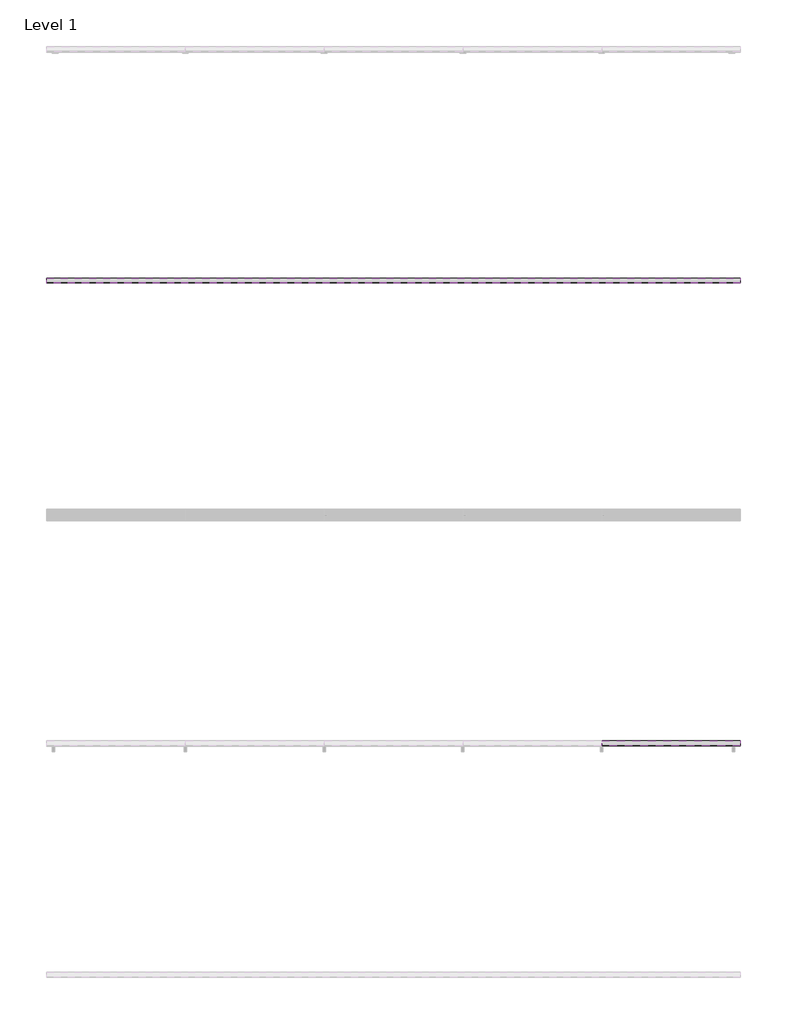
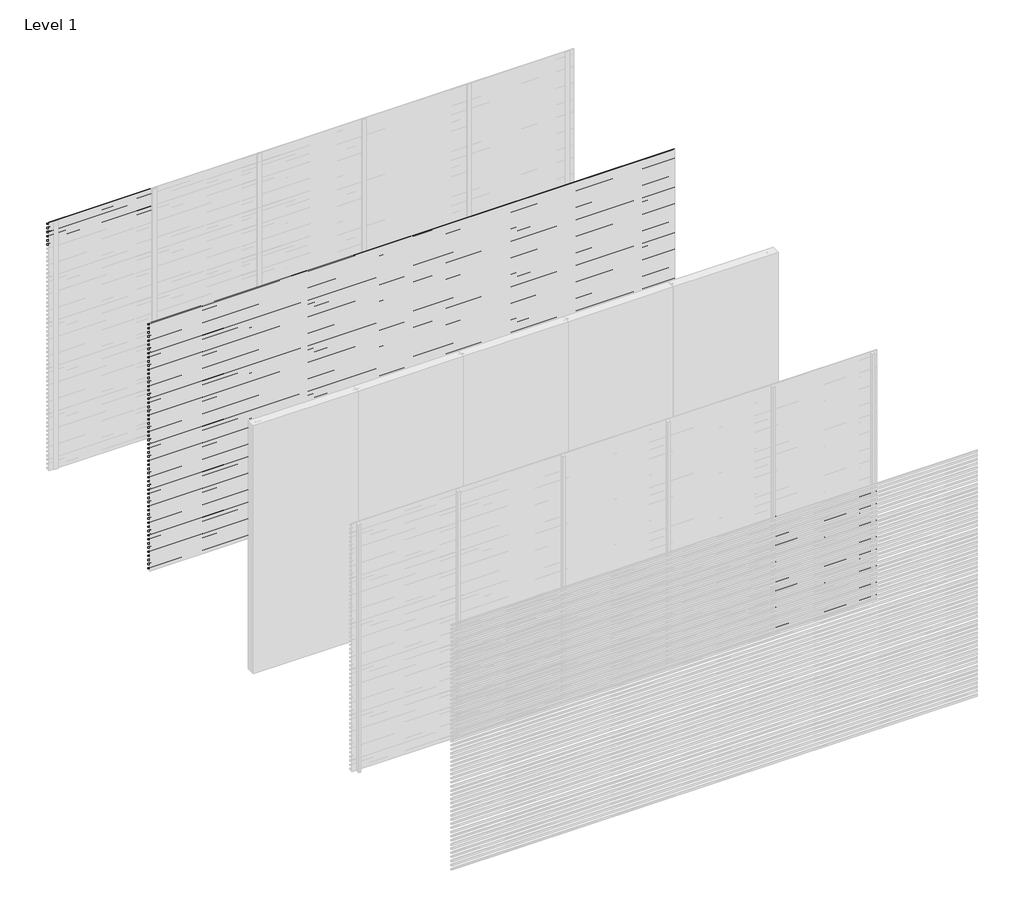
# One storey, part 13 of 16: 94 proxies.
"""IFC4 building model written with IfcOpenShell, lengths in millimetres."""

from ifc_helpers import new_model, si_unit, frame, origin, place, context, project, spatial, polyline, outline, extrude, element, save

model = new_model("IFC4")

# Units and contexts
model_context = context("Model", 3, world=origin())
ifc_project = project(units=[si_unit("LENGTHUNIT", "METRE", prefix="MILLI")], contexts=[model_context])

# Site, building, storey
site = spatial("IfcSite", under=ifc_project)
building = spatial("IfcBuilding", under=site)
storey = spatial("IfcBuildingStorey", under=building, Name="Level 1", Elevation=0.0)

# Proxies
placement = place(None, origin())
element("IfcBuildingElementProxy", 1, Name="Wall Sweeps", at=placement, inside=storey, context=model_context, shape_type="SweptSolid", body=[
    extrude(outline(polyline([(5.0, 3000.0), (5.0, 2989.6352854), (46.0, 2965.0), (46.0, 2950.0), (3.0, 2975.8370066), (3.0, 3000.0), (5.0, 3000.0)])), frame((0.0, 0.0, 0.0), z_axis=(1.0, 0.0, 0.0), x_axis=(0.0, 1.0, 0.0)), (0.0, 0.0, 1.0), 1200.0),
])
element("IfcBuildingElementProxy", 2, Name="Wall Sweeps", at=placement, inside=storey, context=model_context, shape_type="SweptSolid", body=[
    extrude(outline(polyline([(5.0, 2950.0), (5.0, 2939.6352854), (46.0, 2915.0), (46.0, 2900.0), (3.0, 2925.8370066), (3.0, 2950.0), (5.0, 2950.0)])), frame((0.0, 0.0, 0.0), z_axis=(1.0, 0.0, 0.0), x_axis=(0.0, 1.0, 0.0)), (0.0, 0.0, 1.0), 1200.0),
])
element("IfcBuildingElementProxy", 3, Name="Wall Sweeps", at=placement, inside=storey, context=model_context, shape_type="SweptSolid", body=[
    extrude(outline(polyline([(5.0, 2900.0), (5.0, 2889.6352854), (46.0, 2865.0), (46.0, 2850.0), (3.0, 2875.8370066), (3.0, 2900.0), (5.0, 2900.0)])), frame((0.0, 0.0, 0.0), z_axis=(1.0, 0.0, 0.0), x_axis=(0.0, 1.0, 0.0)), (0.0, 0.0, 1.0), 1200.0),
])
element("IfcBuildingElementProxy", 4, Name="Wall Sweeps", at=placement, inside=storey, context=model_context, shape_type="SweptSolid", body=[
    extrude(outline(polyline([(5.0, 2850.0), (5.0, 2839.6352854), (46.0, 2815.0), (46.0, 2800.0), (3.0, 2825.8370066), (3.0, 2850.0), (5.0, 2850.0)])), frame((0.0, 0.0, 0.0), z_axis=(1.0, 0.0, 0.0), x_axis=(0.0, 1.0, 0.0)), (0.0, 0.0, 1.0), 1200.0),
])
element("IfcBuildingElementProxy", 5, Name="Wall Sweeps", at=placement, inside=storey, context=model_context, shape_type="SweptSolid", body=[
    extrude(outline(polyline([(5.0, 2800.0), (5.0, 2789.6352854), (46.0, 2765.0), (46.0, 2750.0), (3.0, 2775.8370066), (3.0, 2800.0), (5.0, 2800.0)])), frame((0.0, 0.0, 0.0), z_axis=(1.0, 0.0, 0.0), x_axis=(0.0, 1.0, 0.0)), (0.0, 0.0, 1.0), 1200.0),
])
element("IfcBuildingElementProxy", 6, Name="Wall Sweeps", at=placement, inside=storey, context=model_context, shape_type="SweptSolid", body=[
    extrude(outline(polyline([(5.0, 2750.0), (5.0, 2739.6352854), (46.0, 2715.0), (46.0, 2700.0), (3.0, 2725.8370066), (3.0, 2750.0), (5.0, 2750.0)])), frame((0.0, 0.0, 0.0), z_axis=(1.0, 0.0, 0.0), x_axis=(0.0, 1.0, 0.0)), (0.0, 0.0, 1.0), 1200.0),
])
element("IfcBuildingElementProxy", 7, Name="Wall Sweeps", at=placement, inside=storey, context=model_context, shape_type="SweptSolid", body=[
    extrude(outline(polyline([(-1995.0, 3000.0), (-1995.0, 2989.6352854), (-1954.0, 2965.0), (-1954.0, 2950.0), (-1997.0, 2975.8370066), (-1997.0, 3000.0), (-1995.0, 3000.0)])), frame((0.0, 0.0, 0.0), z_axis=(1.0, 0.0, 0.0), x_axis=(0.0, 1.0, 0.0)), (0.0, 0.0, 1.0), 6000.0),
])
element("IfcBuildingElementProxy", 8, Name="Wall Sweeps", at=placement, inside=storey, context=model_context, shape_type="SweptSolid", body=[
    extrude(outline(polyline([(-1995.0, 2950.0), (-1995.0, 2939.6352854), (-1954.0, 2915.0), (-1954.0, 2900.0), (-1997.0, 2925.8370066), (-1997.0, 2950.0), (-1995.0, 2950.0)])), frame((0.0, 0.0, 0.0), z_axis=(1.0, 0.0, 0.0), x_axis=(0.0, 1.0, 0.0)), (0.0, 0.0, 1.0), 6000.0),
])
element("IfcBuildingElementProxy", 9, Name="Wall Sweeps", at=placement, inside=storey, context=model_context, shape_type="SweptSolid", body=[
    extrude(outline(polyline([(-1995.0, 2900.0), (-1995.0, 2889.6352854), (-1954.0, 2865.0), (-1954.0, 2850.0), (-1997.0, 2875.8370066), (-1997.0, 2900.0), (-1995.0, 2900.0)])), frame((0.0, 0.0, 0.0), z_axis=(1.0, 0.0, 0.0), x_axis=(0.0, 1.0, 0.0)), (0.0, 0.0, 1.0), 6000.0),
])
element("IfcBuildingElementProxy", 10, Name="Wall Sweeps", at=placement, inside=storey, context=model_context, shape_type="SweptSolid", body=[
    extrude(outline(polyline([(-1995.0, 2850.0), (-1995.0, 2839.6352854), (-1954.0, 2815.0), (-1954.0, 2800.0), (-1997.0, 2825.8370066), (-1997.0, 2850.0), (-1995.0, 2850.0)])), frame((0.0, 0.0, 0.0), z_axis=(1.0, 0.0, 0.0), x_axis=(0.0, 1.0, 0.0)), (0.0, 0.0, 1.0), 6000.0),
])
element("IfcBuildingElementProxy", 11, Name="Wall Sweeps", at=placement, inside=storey, context=model_context, shape_type="SweptSolid", body=[
    extrude(outline(polyline([(-1995.0, 2800.0), (-1995.0, 2789.6352854), (-1954.0, 2765.0), (-1954.0, 2750.0), (-1997.0, 2775.8370066), (-1997.0, 2800.0), (-1995.0, 2800.0)])), frame((0.0, 0.0, 0.0), z_axis=(1.0, 0.0, 0.0), x_axis=(0.0, 1.0, 0.0)), (0.0, 0.0, 1.0), 6000.0),
])
element("IfcBuildingElementProxy", 12, Name="Wall Sweeps", at=placement, inside=storey, context=model_context, shape_type="SweptSolid", body=[
    extrude(outline(polyline([(-1995.0, 2750.0), (-1995.0, 2739.6352854), (-1954.0, 2715.0), (-1954.0, 2700.0), (-1997.0, 2725.8370066), (-1997.0, 2750.0), (-1995.0, 2750.0)])), frame((0.0, 0.0, 0.0), z_axis=(1.0, 0.0, 0.0), x_axis=(0.0, 1.0, 0.0)), (0.0, 0.0, 1.0), 6000.0),
])
element("IfcBuildingElementProxy", 13, Name="Wall Sweeps", at=placement, inside=storey, context=model_context, shape_type="SweptSolid", body=[
    extrude(outline(polyline([(-1995.0, 2700.0), (-1995.0, 2689.6352854), (-1954.0, 2665.0), (-1954.0, 2650.0), (-1997.0, 2675.8370066), (-1997.0, 2700.0), (-1995.0, 2700.0)])), frame((0.0, 0.0, 0.0), z_axis=(1.0, 0.0, 0.0), x_axis=(0.0, 1.0, 0.0)), (0.0, 0.0, 1.0), 6000.0),
])
element("IfcBuildingElementProxy", 14, Name="Wall Sweeps", at=placement, inside=storey, context=model_context, shape_type="SweptSolid", body=[
    extrude(outline(polyline([(-1995.0, 2650.0), (-1995.0, 2639.6352854), (-1954.0, 2615.0), (-1954.0, 2600.0), (-1997.0, 2625.8370066), (-1997.0, 2650.0), (-1995.0, 2650.0)])), frame((0.0, 0.0, 0.0), z_axis=(1.0, 0.0, 0.0), x_axis=(0.0, 1.0, 0.0)), (0.0, 0.0, 1.0), 6000.0),
])
element("IfcBuildingElementProxy", 15, Name="Wall Sweeps", at=placement, inside=storey, context=model_context, shape_type="SweptSolid", body=[
    extrude(outline(polyline([(-1995.0, 2600.0), (-1995.0, 2589.6352854), (-1954.0, 2565.0), (-1954.0, 2550.0), (-1997.0, 2575.8370066), (-1997.0, 2600.0), (-1995.0, 2600.0)])), frame((0.0, 0.0, 0.0), z_axis=(1.0, 0.0, 0.0), x_axis=(0.0, 1.0, 0.0)), (0.0, 0.0, 1.0), 6000.0),
])
element("IfcBuildingElementProxy", 16, Name="Wall Sweeps", at=placement, inside=storey, context=model_context, shape_type="SweptSolid", body=[
    extrude(outline(polyline([(-1995.0, 2550.0), (-1995.0, 2539.6352854), (-1954.0, 2515.0), (-1954.0, 2500.0), (-1997.0, 2525.8370066), (-1997.0, 2550.0), (-1995.0, 2550.0)])), frame((0.0, 0.0, 0.0), z_axis=(1.0, 0.0, 0.0), x_axis=(0.0, 1.0, 0.0)), (0.0, 0.0, 1.0), 6000.0),
])
element("IfcBuildingElementProxy", 17, Name="Wall Sweeps", at=placement, inside=storey, context=model_context, shape_type="SweptSolid", body=[
    extrude(outline(polyline([(-1995.0, 2500.0), (-1995.0, 2489.6352854), (-1954.0, 2465.0), (-1954.0, 2450.0), (-1997.0, 2475.8370066), (-1997.0, 2500.0), (-1995.0, 2500.0)])), frame((0.0, 0.0, 0.0), z_axis=(1.0, 0.0, 0.0), x_axis=(0.0, 1.0, 0.0)), (0.0, 0.0, 1.0), 6000.0),
])
element("IfcBuildingElementProxy", 18, Name="Wall Sweeps", at=placement, inside=storey, context=model_context, shape_type="SweptSolid", body=[
    extrude(outline(polyline([(-1995.0, 2450.0), (-1995.0, 2439.6352854), (-1954.0, 2415.0), (-1954.0, 2400.0), (-1997.0, 2425.8370066), (-1997.0, 2450.0), (-1995.0, 2450.0)])), frame((0.0, 0.0, 0.0), z_axis=(1.0, 0.0, 0.0), x_axis=(0.0, 1.0, 0.0)), (0.0, 0.0, 1.0), 6000.0),
])
element("IfcBuildingElementProxy", 19, Name="Wall Sweeps", at=placement, inside=storey, context=model_context, shape_type="SweptSolid", body=[
    extrude(outline(polyline([(-1995.0, 2400.0), (-1995.0, 2389.6352854), (-1954.0, 2365.0), (-1954.0, 2350.0), (-1997.0, 2375.8370066), (-1997.0, 2400.0), (-1995.0, 2400.0)])), frame((0.0, 0.0, 0.0), z_axis=(1.0, 0.0, 0.0), x_axis=(0.0, 1.0, 0.0)), (0.0, 0.0, 1.0), 6000.0),
])
element("IfcBuildingElementProxy", 20, Name="Wall Sweeps", at=placement, inside=storey, context=model_context, shape_type="SweptSolid", body=[
    extrude(outline(polyline([(-1995.0, 2350.0), (-1995.0, 2339.6352854), (-1954.0, 2315.0), (-1954.0, 2300.0), (-1997.0, 2325.8370066), (-1997.0, 2350.0), (-1995.0, 2350.0)])), frame((0.0, 0.0, 0.0), z_axis=(1.0, 0.0, 0.0), x_axis=(0.0, 1.0, 0.0)), (0.0, 0.0, 1.0), 6000.0),
])
element("IfcBuildingElementProxy", 21, Name="Wall Sweeps", at=placement, inside=storey, context=model_context, shape_type="SweptSolid", body=[
    extrude(outline(polyline([(-1995.0, 2300.0), (-1995.0, 2289.6352854), (-1954.0, 2265.0), (-1954.0, 2250.0), (-1997.0, 2275.8370066), (-1997.0, 2300.0), (-1995.0, 2300.0)])), frame((0.0, 0.0, 0.0), z_axis=(1.0, 0.0, 0.0), x_axis=(0.0, 1.0, 0.0)), (0.0, 0.0, 1.0), 6000.0),
])
element("IfcBuildingElementProxy", 22, Name="Wall Sweeps", at=placement, inside=storey, context=model_context, shape_type="SweptSolid", body=[
    extrude(outline(polyline([(-1995.0, 2250.0), (-1995.0, 2239.6352854), (-1954.0, 2215.0), (-1954.0, 2200.0), (-1997.0, 2225.8370066), (-1997.0, 2250.0), (-1995.0, 2250.0)])), frame((0.0, 0.0, 0.0), z_axis=(1.0, 0.0, 0.0), x_axis=(0.0, 1.0, 0.0)), (0.0, 0.0, 1.0), 6000.0),
])
element("IfcBuildingElementProxy", 23, Name="Wall Sweeps", at=placement, inside=storey, context=model_context, shape_type="SweptSolid", body=[
    extrude(outline(polyline([(-1995.0, 2200.0), (-1995.0, 2189.6352854), (-1954.0, 2165.0), (-1954.0, 2150.0), (-1997.0, 2175.8370066), (-1997.0, 2200.0), (-1995.0, 2200.0)])), frame((0.0, 0.0, 0.0), z_axis=(1.0, 0.0, 0.0), x_axis=(0.0, 1.0, 0.0)), (0.0, 0.0, 1.0), 6000.0),
])
element("IfcBuildingElementProxy", 24, Name="Wall Sweeps", at=placement, inside=storey, context=model_context, shape_type="SweptSolid", body=[
    extrude(outline(polyline([(-1995.0, 2150.0), (-1995.0, 2139.6352854), (-1954.0, 2115.0), (-1954.0, 2100.0), (-1997.0, 2125.8370066), (-1997.0, 2150.0), (-1995.0, 2150.0)])), frame((0.0, 0.0, 0.0), z_axis=(1.0, 0.0, 0.0), x_axis=(0.0, 1.0, 0.0)), (0.0, 0.0, 1.0), 6000.0),
])
element("IfcBuildingElementProxy", 25, Name="Wall Sweeps", at=placement, inside=storey, context=model_context, shape_type="SweptSolid", body=[
    extrude(outline(polyline([(-1995.0, 2100.0), (-1995.0, 2089.6352854), (-1954.0, 2065.0), (-1954.0, 2050.0), (-1997.0, 2075.8370066), (-1997.0, 2100.0), (-1995.0, 2100.0)])), frame((0.0, 0.0, 0.0), z_axis=(1.0, 0.0, 0.0), x_axis=(0.0, 1.0, 0.0)), (0.0, 0.0, 1.0), 6000.0),
])
element("IfcBuildingElementProxy", 26, Name="Wall Sweeps", at=placement, inside=storey, context=model_context, shape_type="SweptSolid", body=[
    extrude(outline(polyline([(-1995.0, 2050.0), (-1995.0, 2039.6352854), (-1954.0, 2015.0), (-1954.0, 2000.0), (-1997.0, 2025.8370066), (-1997.0, 2050.0), (-1995.0, 2050.0)])), frame((0.0, 0.0, 0.0), z_axis=(1.0, 0.0, 0.0), x_axis=(0.0, 1.0, 0.0)), (0.0, 0.0, 1.0), 6000.0),
])
element("IfcBuildingElementProxy", 27, Name="Wall Sweeps", at=placement, inside=storey, context=model_context, shape_type="SweptSolid", body=[
    extrude(outline(polyline([(-1995.0, 2000.0), (-1995.0, 1989.6352854), (-1954.0, 1965.0), (-1954.0, 1950.0), (-1997.0, 1975.8370066), (-1997.0, 2000.0), (-1995.0, 2000.0)])), frame((0.0, 0.0, 0.0), z_axis=(1.0, 0.0, 0.0), x_axis=(0.0, 1.0, 0.0)), (0.0, 0.0, 1.0), 6000.0),
])
element("IfcBuildingElementProxy", 28, Name="Wall Sweeps", at=placement, inside=storey, context=model_context, shape_type="SweptSolid", body=[
    extrude(outline(polyline([(-1995.0, 1950.0), (-1995.0, 1939.6352854), (-1954.0, 1915.0), (-1954.0, 1900.0), (-1997.0, 1925.8370066), (-1997.0, 1950.0), (-1995.0, 1950.0)])), frame((0.0, 0.0, 0.0), z_axis=(1.0, 0.0, 0.0), x_axis=(0.0, 1.0, 0.0)), (0.0, 0.0, 1.0), 6000.0),
])
element("IfcBuildingElementProxy", 29, Name="Wall Sweeps", at=placement, inside=storey, context=model_context, shape_type="SweptSolid", body=[
    extrude(outline(polyline([(-1995.0, 1900.0), (-1995.0, 1889.6352854), (-1954.0, 1865.0), (-1954.0, 1850.0), (-1997.0, 1875.8370066), (-1997.0, 1900.0), (-1995.0, 1900.0)])), frame((0.0, 0.0, 0.0), z_axis=(1.0, 0.0, 0.0), x_axis=(0.0, 1.0, 0.0)), (0.0, 0.0, 1.0), 6000.0),
])
element("IfcBuildingElementProxy", 30, Name="Wall Sweeps", at=placement, inside=storey, context=model_context, shape_type="SweptSolid", body=[
    extrude(outline(polyline([(-1995.0, 1850.0), (-1995.0, 1839.6352854), (-1954.0, 1815.0), (-1954.0, 1800.0), (-1997.0, 1825.8370066), (-1997.0, 1850.0), (-1995.0, 1850.0)])), frame((0.0, 0.0, 0.0), z_axis=(1.0, 0.0, 0.0), x_axis=(0.0, 1.0, 0.0)), (0.0, 0.0, 1.0), 6000.0),
])
element("IfcBuildingElementProxy", 31, Name="Wall Sweeps", at=placement, inside=storey, context=model_context, shape_type="SweptSolid", body=[
    extrude(outline(polyline([(-1995.0, 1800.0), (-1995.0, 1789.6352854), (-1954.0, 1765.0), (-1954.0, 1750.0), (-1997.0, 1775.8370066), (-1997.0, 1800.0), (-1995.0, 1800.0)])), frame((0.0, 0.0, 0.0), z_axis=(1.0, 0.0, 0.0), x_axis=(0.0, 1.0, 0.0)), (0.0, 0.0, 1.0), 6000.0),
])
element("IfcBuildingElementProxy", 32, Name="Wall Sweeps", at=placement, inside=storey, context=model_context, shape_type="SweptSolid", body=[
    extrude(outline(polyline([(-1995.0, 1750.0), (-1995.0, 1739.6352854), (-1954.0, 1715.0), (-1954.0, 1700.0), (-1997.0, 1725.8370066), (-1997.0, 1750.0), (-1995.0, 1750.0)])), frame((0.0, 0.0, 0.0), z_axis=(1.0, 0.0, 0.0), x_axis=(0.0, 1.0, 0.0)), (0.0, 0.0, 1.0), 6000.0),
])
element("IfcBuildingElementProxy", 33, Name="Wall Sweeps", at=placement, inside=storey, context=model_context, shape_type="SweptSolid", body=[
    extrude(outline(polyline([(-1995.0, 1700.0), (-1995.0, 1689.6352854), (-1954.0, 1665.0), (-1954.0, 1650.0), (-1997.0, 1675.8370066), (-1997.0, 1700.0), (-1995.0, 1700.0)])), frame((0.0, 0.0, 0.0), z_axis=(1.0, 0.0, 0.0), x_axis=(0.0, 1.0, 0.0)), (0.0, 0.0, 1.0), 6000.0),
])
element("IfcBuildingElementProxy", 34, Name="Wall Sweeps", at=placement, inside=storey, context=model_context, shape_type="SweptSolid", body=[
    extrude(outline(polyline([(-1995.0, 1650.0), (-1995.0, 1639.6352854), (-1954.0, 1615.0), (-1954.0, 1600.0), (-1997.0, 1625.8370066), (-1997.0, 1650.0), (-1995.0, 1650.0)])), frame((0.0, 0.0, 0.0), z_axis=(1.0, 0.0, 0.0), x_axis=(0.0, 1.0, 0.0)), (0.0, 0.0, 1.0), 6000.0),
])
element("IfcBuildingElementProxy", 35, Name="Wall Sweeps", at=placement, inside=storey, context=model_context, shape_type="SweptSolid", body=[
    extrude(outline(polyline([(-1995.0, 1600.0), (-1995.0, 1589.6352854), (-1954.0, 1565.0), (-1954.0, 1550.0), (-1997.0, 1575.8370066), (-1997.0, 1600.0), (-1995.0, 1600.0)])), frame((0.0, 0.0, 0.0), z_axis=(1.0, 0.0, 0.0), x_axis=(0.0, 1.0, 0.0)), (0.0, 0.0, 1.0), 6000.0),
])
element("IfcBuildingElementProxy", 36, Name="Wall Sweeps", at=placement, inside=storey, context=model_context, shape_type="SweptSolid", body=[
    extrude(outline(polyline([(-1995.0, 1550.0), (-1995.0, 1539.6352854), (-1954.0, 1515.0), (-1954.0, 1500.0), (-1997.0, 1525.8370066), (-1997.0, 1550.0), (-1995.0, 1550.0)])), frame((0.0, 0.0, 0.0), z_axis=(1.0, 0.0, 0.0), x_axis=(0.0, 1.0, 0.0)), (0.0, 0.0, 1.0), 6000.0),
])
element("IfcBuildingElementProxy", 37, Name="Wall Sweeps", at=placement, inside=storey, context=model_context, shape_type="SweptSolid", body=[
    extrude(outline(polyline([(-1995.0, 1500.0), (-1995.0, 1489.6352854), (-1954.0, 1465.0), (-1954.0, 1450.0), (-1997.0, 1475.8370066), (-1997.0, 1500.0), (-1995.0, 1500.0)])), frame((0.0, 0.0, 0.0), z_axis=(1.0, 0.0, 0.0), x_axis=(0.0, 1.0, 0.0)), (0.0, 0.0, 1.0), 6000.0),
])
element("IfcBuildingElementProxy", 38, Name="Wall Sweeps", at=placement, inside=storey, context=model_context, shape_type="SweptSolid", body=[
    extrude(outline(polyline([(-1995.0, 1450.0), (-1995.0, 1439.6352854), (-1954.0, 1415.0), (-1954.0, 1400.0), (-1997.0, 1425.8370066), (-1997.0, 1450.0), (-1995.0, 1450.0)])), frame((0.0, 0.0, 0.0), z_axis=(1.0, 0.0, 0.0), x_axis=(0.0, 1.0, 0.0)), (0.0, 0.0, 1.0), 6000.0),
])
element("IfcBuildingElementProxy", 39, Name="Wall Sweeps", at=placement, inside=storey, context=model_context, shape_type="SweptSolid", body=[
    extrude(outline(polyline([(-1995.0, 1400.0), (-1995.0, 1389.6352854), (-1954.0, 1365.0), (-1954.0, 1350.0), (-1997.0, 1375.8370066), (-1997.0, 1400.0), (-1995.0, 1400.0)])), frame((0.0, 0.0, 0.0), z_axis=(1.0, 0.0, 0.0), x_axis=(0.0, 1.0, 0.0)), (0.0, 0.0, 1.0), 6000.0),
])
element("IfcBuildingElementProxy", 40, Name="Wall Sweeps", at=placement, inside=storey, context=model_context, shape_type="SweptSolid", body=[
    extrude(outline(polyline([(-1995.0, 1350.0), (-1995.0, 1339.6352854), (-1954.0, 1315.0), (-1954.0, 1300.0), (-1997.0, 1325.8370066), (-1997.0, 1350.0), (-1995.0, 1350.0)])), frame((0.0, 0.0, 0.0), z_axis=(1.0, 0.0, 0.0), x_axis=(0.0, 1.0, 0.0)), (0.0, 0.0, 1.0), 6000.0),
])
element("IfcBuildingElementProxy", 41, Name="Wall Sweeps", at=placement, inside=storey, context=model_context, shape_type="SweptSolid", body=[
    extrude(outline(polyline([(-1995.0, 1300.0), (-1995.0, 1289.6352854), (-1954.0, 1265.0), (-1954.0, 1250.0), (-1997.0, 1275.8370066), (-1997.0, 1300.0), (-1995.0, 1300.0)])), frame((0.0, 0.0, 0.0), z_axis=(1.0, 0.0, 0.0), x_axis=(0.0, 1.0, 0.0)), (0.0, 0.0, 1.0), 6000.0),
])
element("IfcBuildingElementProxy", 42, Name="Wall Sweeps", at=placement, inside=storey, context=model_context, shape_type="SweptSolid", body=[
    extrude(outline(polyline([(-1995.0, 1250.0), (-1995.0, 1239.6352854), (-1954.0, 1215.0), (-1954.0, 1200.0), (-1997.0, 1225.8370066), (-1997.0, 1250.0), (-1995.0, 1250.0)])), frame((0.0, 0.0, 0.0), z_axis=(1.0, 0.0, 0.0), x_axis=(0.0, 1.0, 0.0)), (0.0, 0.0, 1.0), 6000.0),
])
element("IfcBuildingElementProxy", 43, Name="Wall Sweeps", at=placement, inside=storey, context=model_context, shape_type="SweptSolid", body=[
    extrude(outline(polyline([(-1995.0, 1200.0), (-1995.0, 1189.6352854), (-1954.0, 1165.0), (-1954.0, 1150.0), (-1997.0, 1175.8370066), (-1997.0, 1200.0), (-1995.0, 1200.0)])), frame((0.0, 0.0, 0.0), z_axis=(1.0, 0.0, 0.0), x_axis=(0.0, 1.0, 0.0)), (0.0, 0.0, 1.0), 6000.0),
])
element("IfcBuildingElementProxy", 44, Name="Wall Sweeps", at=placement, inside=storey, context=model_context, shape_type="SweptSolid", body=[
    extrude(outline(polyline([(-1995.0, 1150.0), (-1995.0, 1139.6352854), (-1954.0, 1115.0), (-1954.0, 1100.0), (-1997.0, 1125.8370066), (-1997.0, 1150.0), (-1995.0, 1150.0)])), frame((0.0, 0.0, 0.0), z_axis=(1.0, 0.0, 0.0), x_axis=(0.0, 1.0, 0.0)), (0.0, 0.0, 1.0), 6000.0),
])
element("IfcBuildingElementProxy", 45, Name="Wall Sweeps", at=placement, inside=storey, context=model_context, shape_type="SweptSolid", body=[
    extrude(outline(polyline([(-1995.0, 1100.0), (-1995.0, 1089.6352854), (-1954.0, 1065.0), (-1954.0, 1050.0), (-1997.0, 1075.8370066), (-1997.0, 1100.0), (-1995.0, 1100.0)])), frame((0.0, 0.0, 0.0), z_axis=(1.0, 0.0, 0.0), x_axis=(0.0, 1.0, 0.0)), (0.0, 0.0, 1.0), 6000.0),
])
element("IfcBuildingElementProxy", 46, Name="Wall Sweeps", at=placement, inside=storey, context=model_context, shape_type="SweptSolid", body=[
    extrude(outline(polyline([(-1995.0, 1050.0), (-1995.0, 1039.6352854), (-1954.0, 1015.0), (-1954.0, 1000.0), (-1997.0, 1025.8370066), (-1997.0, 1050.0), (-1995.0, 1050.0)])), frame((0.0, 0.0, 0.0), z_axis=(1.0, 0.0, 0.0), x_axis=(0.0, 1.0, 0.0)), (0.0, 0.0, 1.0), 6000.0),
])
element("IfcBuildingElementProxy", 47, Name="Wall Sweeps", at=placement, inside=storey, context=model_context, shape_type="SweptSolid", body=[
    extrude(outline(polyline([(-1995.0, 1000.0), (-1995.0, 989.6352854), (-1954.0, 965.0), (-1954.0, 950.0), (-1997.0, 975.8370066), (-1997.0, 1000.0), (-1995.0, 1000.0)])), frame((0.0, 0.0, 0.0), z_axis=(1.0, 0.0, 0.0), x_axis=(0.0, 1.0, 0.0)), (0.0, 0.0, 1.0), 6000.0),
])
element("IfcBuildingElementProxy", 48, Name="Wall Sweeps", at=placement, inside=storey, context=model_context, shape_type="SweptSolid", body=[
    extrude(outline(polyline([(-1995.0, 950.0), (-1995.0, 939.6352854), (-1954.0, 915.0), (-1954.0, 900.0), (-1997.0, 925.8370066), (-1997.0, 950.0), (-1995.0, 950.0)])), frame((0.0, 0.0, 0.0), z_axis=(1.0, 0.0, 0.0), x_axis=(0.0, 1.0, 0.0)), (0.0, 0.0, 1.0), 6000.0),
])
element("IfcBuildingElementProxy", 49, Name="Wall Sweeps", at=placement, inside=storey, context=model_context, shape_type="SweptSolid", body=[
    extrude(outline(polyline([(-1995.0, 900.0), (-1995.0, 889.6352854), (-1954.0, 865.0), (-1954.0, 850.0), (-1997.0, 875.8370066), (-1997.0, 900.0), (-1995.0, 900.0)])), frame((0.0, 0.0, 0.0), z_axis=(1.0, 0.0, 0.0), x_axis=(0.0, 1.0, 0.0)), (0.0, 0.0, 1.0), 6000.0),
])
element("IfcBuildingElementProxy", 50, Name="Wall Sweeps", at=placement, inside=storey, context=model_context, shape_type="SweptSolid", body=[
    extrude(outline(polyline([(-1995.0, 850.0), (-1995.0, 839.6352854), (-1954.0, 815.0), (-1954.0, 800.0), (-1997.0, 825.8370066), (-1997.0, 850.0), (-1995.0, 850.0)])), frame((0.0, 0.0, 0.0), z_axis=(1.0, 0.0, 0.0), x_axis=(0.0, 1.0, 0.0)), (0.0, 0.0, 1.0), 6000.0),
])
element("IfcBuildingElementProxy", 51, Name="Wall Sweeps", at=placement, inside=storey, context=model_context, shape_type="SweptSolid", body=[
    extrude(outline(polyline([(-1995.0, 800.0), (-1995.0, 789.6352854), (-1954.0, 765.0), (-1954.0, 750.0), (-1997.0, 775.8370066), (-1997.0, 800.0), (-1995.0, 800.0)])), frame((0.0, 0.0, 0.0), z_axis=(1.0, 0.0, 0.0), x_axis=(0.0, 1.0, 0.0)), (0.0, 0.0, 1.0), 6000.0),
])
element("IfcBuildingElementProxy", 52, Name="Wall Sweeps", at=placement, inside=storey, context=model_context, shape_type="SweptSolid", body=[
    extrude(outline(polyline([(-1995.0, 750.0), (-1995.0, 739.6352854), (-1954.0, 715.0), (-1954.0, 700.0), (-1997.0, 725.8370066), (-1997.0, 750.0), (-1995.0, 750.0)])), frame((0.0, 0.0, 0.0), z_axis=(1.0, 0.0, 0.0), x_axis=(0.0, 1.0, 0.0)), (0.0, 0.0, 1.0), 6000.0),
])
element("IfcBuildingElementProxy", 53, Name="Wall Sweeps", at=placement, inside=storey, context=model_context, shape_type="SweptSolid", body=[
    extrude(outline(polyline([(-1995.0, 700.0), (-1995.0, 689.6352854), (-1954.0, 665.0), (-1954.0, 650.0), (-1997.0, 675.8370066), (-1997.0, 700.0), (-1995.0, 700.0)])), frame((0.0, 0.0, 0.0), z_axis=(1.0, 0.0, 0.0), x_axis=(0.0, 1.0, 0.0)), (0.0, 0.0, 1.0), 6000.0),
])
element("IfcBuildingElementProxy", 54, Name="Wall Sweeps", at=placement, inside=storey, context=model_context, shape_type="SweptSolid", body=[
    extrude(outline(polyline([(-1995.0, 650.0), (-1995.0, 639.6352854), (-1954.0, 615.0), (-1954.0, 600.0), (-1997.0, 625.8370066), (-1997.0, 650.0), (-1995.0, 650.0)])), frame((0.0, 0.0, 0.0), z_axis=(1.0, 0.0, 0.0), x_axis=(0.0, 1.0, 0.0)), (0.0, 0.0, 1.0), 6000.0),
])
element("IfcBuildingElementProxy", 55, Name="Wall Sweeps", at=placement, inside=storey, context=model_context, shape_type="SweptSolid", body=[
    extrude(outline(polyline([(-1995.0, 600.0), (-1995.0, 589.6352854), (-1954.0, 565.0), (-1954.0, 550.0), (-1997.0, 575.8370066), (-1997.0, 600.0), (-1995.0, 600.0)])), frame((0.0, 0.0, 0.0), z_axis=(1.0, 0.0, 0.0), x_axis=(0.0, 1.0, 0.0)), (0.0, 0.0, 1.0), 6000.0),
])
element("IfcBuildingElementProxy", 56, Name="Wall Sweeps", at=placement, inside=storey, context=model_context, shape_type="SweptSolid", body=[
    extrude(outline(polyline([(-1995.0, 550.0), (-1995.0, 539.6352854), (-1954.0, 515.0), (-1954.0, 500.0), (-1997.0, 525.8370066), (-1997.0, 550.0), (-1995.0, 550.0)])), frame((0.0, 0.0, 0.0), z_axis=(1.0, 0.0, 0.0), x_axis=(0.0, 1.0, 0.0)), (0.0, 0.0, 1.0), 6000.0),
])
element("IfcBuildingElementProxy", 57, Name="Wall Sweeps", at=placement, inside=storey, context=model_context, shape_type="SweptSolid", body=[
    extrude(outline(polyline([(-1995.0, 500.0), (-1995.0, 489.6352854), (-1954.0, 465.0), (-1954.0, 450.0), (-1997.0, 475.8370066), (-1997.0, 500.0), (-1995.0, 500.0)])), frame((0.0, 0.0, 0.0), z_axis=(1.0, 0.0, 0.0), x_axis=(0.0, 1.0, 0.0)), (0.0, 0.0, 1.0), 6000.0),
])
element("IfcBuildingElementProxy", 58, Name="Wall Sweeps", at=placement, inside=storey, context=model_context, shape_type="SweptSolid", body=[
    extrude(outline(polyline([(-1995.0, 450.0), (-1995.0, 439.6352854), (-1954.0, 415.0), (-1954.0, 400.0), (-1997.0, 425.8370066), (-1997.0, 450.0), (-1995.0, 450.0)])), frame((0.0, 0.0, 0.0), z_axis=(1.0, 0.0, 0.0), x_axis=(0.0, 1.0, 0.0)), (0.0, 0.0, 1.0), 6000.0),
])
element("IfcBuildingElementProxy", 59, Name="Wall Sweeps", at=placement, inside=storey, context=model_context, shape_type="SweptSolid", body=[
    extrude(outline(polyline([(-1995.0, 400.0), (-1995.0, 389.6352854), (-1954.0, 365.0), (-1954.0, 350.0), (-1997.0, 375.8370066), (-1997.0, 400.0), (-1995.0, 400.0)])), frame((0.0, 0.0, 0.0), z_axis=(1.0, 0.0, 0.0), x_axis=(0.0, 1.0, 0.0)), (0.0, 0.0, 1.0), 6000.0),
])
element("IfcBuildingElementProxy", 60, Name="Wall Sweeps", at=placement, inside=storey, context=model_context, shape_type="SweptSolid", body=[
    extrude(outline(polyline([(-1995.0, 350.0), (-1995.0, 339.6352854), (-1954.0, 315.0), (-1954.0, 300.0), (-1997.0, 325.8370066), (-1997.0, 350.0), (-1995.0, 350.0)])), frame((0.0, 0.0, 0.0), z_axis=(1.0, 0.0, 0.0), x_axis=(0.0, 1.0, 0.0)), (0.0, 0.0, 1.0), 6000.0),
])
element("IfcBuildingElementProxy", 61, Name="Wall Sweeps", at=placement, inside=storey, context=model_context, shape_type="SweptSolid", body=[
    extrude(outline(polyline([(-1995.0, 300.0), (-1995.0, 289.6352854), (-1954.0, 265.0), (-1954.0, 250.0), (-1997.0, 275.8370066), (-1997.0, 300.0), (-1995.0, 300.0)])), frame((0.0, 0.0, 0.0), z_axis=(1.0, 0.0, 0.0), x_axis=(0.0, 1.0, 0.0)), (0.0, 0.0, 1.0), 6000.0),
])
element("IfcBuildingElementProxy", 62, Name="Wall Sweeps", at=placement, inside=storey, context=model_context, shape_type="SweptSolid", body=[
    extrude(outline(polyline([(-1995.0, 250.0), (-1995.0, 239.6352854), (-1954.0, 215.0), (-1954.0, 200.0), (-1997.0, 225.8370066), (-1997.0, 250.0), (-1995.0, 250.0)])), frame((0.0, 0.0, 0.0), z_axis=(1.0, 0.0, 0.0), x_axis=(0.0, 1.0, 0.0)), (0.0, 0.0, 1.0), 6000.0),
])
element("IfcBuildingElementProxy", 63, Name="Wall Sweeps", at=placement, inside=storey, context=model_context, shape_type="SweptSolid", body=[
    extrude(outline(polyline([(-1995.0, 200.0), (-1995.0, 189.6352854), (-1954.0, 165.0), (-1954.0, 150.0), (-1997.0, 175.8370066), (-1997.0, 200.0), (-1995.0, 200.0)])), frame((0.0, 0.0, 0.0), z_axis=(1.0, 0.0, 0.0), x_axis=(0.0, 1.0, 0.0)), (0.0, 0.0, 1.0), 6000.0),
])
element("IfcBuildingElementProxy", 64, Name="Wall Sweeps", at=placement, inside=storey, context=model_context, shape_type="SweptSolid", body=[
    extrude(outline(polyline([(-1995.0, 150.0), (-1995.0, 139.6352854), (-1954.0, 115.0), (-1954.0, 100.0), (-1997.0, 125.8370066), (-1997.0, 150.0), (-1995.0, 150.0)])), frame((0.0, 0.0, 0.0), z_axis=(1.0, 0.0, 0.0), x_axis=(0.0, 1.0, 0.0)), (0.0, 0.0, 1.0), 6000.0),
])
element("IfcBuildingElementProxy", 65, Name="Wall Sweeps", at=placement, inside=storey, context=model_context, shape_type="SweptSolid", body=[
    extrude(outline(polyline([(-1995.0, 100.0), (-1995.0, 89.6352854), (-1954.0, 65.0), (-1954.0, 50.0), (-1997.0, 75.8370066), (-1997.0, 100.0), (-1995.0, 100.0)])), frame((0.0, 0.0, 0.0), z_axis=(1.0, 0.0, 0.0), x_axis=(0.0, 1.0, 0.0)), (0.0, 0.0, 1.0), 6000.0),
])
element("IfcBuildingElementProxy", 66, Name="Wall Sweeps", at=placement, inside=storey, context=model_context, shape_type="SweptSolid", body=[
    extrude(outline(polyline([(-1995.0, 50.0), (-1995.0, 39.6352854), (-1954.0, 15.0), (-1954.0, 0.0), (-1997.0, 25.8370066), (-1997.0, 50.0), (-1995.0, 50.0)])), frame((0.0, 0.0, 0.0), z_axis=(1.0, 0.0, 0.0), x_axis=(0.0, 1.0, 0.0)), (0.0, 0.0, 1.0), 6000.0),
])
element("IfcBuildingElementProxy", 67, Name="Wall Sweeps", at=placement, inside=storey, context=model_context, shape_type="SweptSolid", body=[
    extrude(outline(polyline([(-5995.0, 1400.0), (-5995.0, 1389.6352854), (-5954.0, 1365.0), (-5954.0, 1350.0), (-5997.0, 1375.8370066), (-5997.0, 1400.0), (-5995.0, 1400.0)])), frame((4800.0, 0.0, 0.0), z_axis=(1.0, 0.0, 0.0), x_axis=(0.0, 1.0, 0.0)), (0.0, 0.0, 1.0), 1200.0),
])
element("IfcBuildingElementProxy", 68, Name="Wall Sweeps", at=placement, inside=storey, context=model_context, shape_type="SweptSolid", body=[
    extrude(outline(polyline([(-5995.0, 1350.0), (-5995.0, 1339.6352854), (-5954.0, 1315.0), (-5954.0, 1300.0), (-5997.0, 1325.8370066), (-5997.0, 1350.0), (-5995.0, 1350.0)])), frame((4800.0, 0.0, 0.0), z_axis=(1.0, 0.0, 0.0), x_axis=(0.0, 1.0, 0.0)), (0.0, 0.0, 1.0), 1200.0),
])
element("IfcBuildingElementProxy", 69, Name="Wall Sweeps", at=placement, inside=storey, context=model_context, shape_type="SweptSolid", body=[
    extrude(outline(polyline([(-5995.0, 1300.0), (-5995.0, 1289.6352854), (-5954.0, 1265.0), (-5954.0, 1250.0), (-5997.0, 1275.8370066), (-5997.0, 1300.0), (-5995.0, 1300.0)])), frame((4800.0, 0.0, 0.0), z_axis=(1.0, 0.0, 0.0), x_axis=(0.0, 1.0, 0.0)), (0.0, 0.0, 1.0), 1200.0),
])
element("IfcBuildingElementProxy", 70, Name="Wall Sweeps", at=placement, inside=storey, context=model_context, shape_type="SweptSolid", body=[
    extrude(outline(polyline([(-5995.0, 1250.0), (-5995.0, 1239.6352854), (-5954.0, 1215.0), (-5954.0, 1200.0), (-5997.0, 1225.8370066), (-5997.0, 1250.0), (-5995.0, 1250.0)])), frame((4800.0, 0.0, 0.0), z_axis=(1.0, 0.0, 0.0), x_axis=(0.0, 1.0, 0.0)), (0.0, 0.0, 1.0), 1200.0),
])
element("IfcBuildingElementProxy", 71, Name="Wall Sweeps", at=placement, inside=storey, context=model_context, shape_type="SweptSolid", body=[
    extrude(outline(polyline([(-5995.0, 1200.0), (-5995.0, 1189.6352854), (-5954.0, 1165.0), (-5954.0, 1150.0), (-5997.0, 1175.8370066), (-5997.0, 1200.0), (-5995.0, 1200.0)])), frame((4800.0, 0.0, 0.0), z_axis=(1.0, 0.0, 0.0), x_axis=(0.0, 1.0, 0.0)), (0.0, 0.0, 1.0), 1200.0),
])
element("IfcBuildingElementProxy", 72, Name="Wall Sweeps", at=placement, inside=storey, context=model_context, shape_type="SweptSolid", body=[
    extrude(outline(polyline([(-5995.0, 1150.0), (-5995.0, 1139.6352854), (-5954.0, 1115.0), (-5954.0, 1100.0), (-5997.0, 1125.8370066), (-5997.0, 1150.0), (-5995.0, 1150.0)])), frame((4800.0, 0.0, 0.0), z_axis=(1.0, 0.0, 0.0), x_axis=(0.0, 1.0, 0.0)), (0.0, 0.0, 1.0), 1200.0),
])
element("IfcBuildingElementProxy", 73, Name="Wall Sweeps", at=placement, inside=storey, context=model_context, shape_type="SweptSolid", body=[
    extrude(outline(polyline([(-5995.0, 1100.0), (-5995.0, 1089.6352854), (-5954.0, 1065.0), (-5954.0, 1050.0), (-5997.0, 1075.8370066), (-5997.0, 1100.0), (-5995.0, 1100.0)])), frame((4800.0, 0.0, 0.0), z_axis=(1.0, 0.0, 0.0), x_axis=(0.0, 1.0, 0.0)), (0.0, 0.0, 1.0), 1200.0),
])
element("IfcBuildingElementProxy", 74, Name="Wall Sweeps", at=placement, inside=storey, context=model_context, shape_type="SweptSolid", body=[
    extrude(outline(polyline([(-5995.0, 1050.0), (-5995.0, 1039.6352854), (-5954.0, 1015.0), (-5954.0, 1000.0), (-5997.0, 1025.8370066), (-5997.0, 1050.0), (-5995.0, 1050.0)])), frame((4800.0, 0.0, 0.0), z_axis=(1.0, 0.0, 0.0), x_axis=(0.0, 1.0, 0.0)), (0.0, 0.0, 1.0), 1200.0),
])
element("IfcBuildingElementProxy", 75, Name="Wall Sweeps", at=placement, inside=storey, context=model_context, shape_type="SweptSolid", body=[
    extrude(outline(polyline([(-5995.0, 1000.0), (-5995.0, 989.6352854), (-5954.0, 965.0), (-5954.0, 950.0), (-5997.0, 975.8370066), (-5997.0, 1000.0), (-5995.0, 1000.0)])), frame((4800.0, 0.0, 0.0), z_axis=(1.0, 0.0, 0.0), x_axis=(0.0, 1.0, 0.0)), (0.0, 0.0, 1.0), 1200.0),
])
element("IfcBuildingElementProxy", 76, Name="Wall Sweeps", at=placement, inside=storey, context=model_context, shape_type="SweptSolid", body=[
    extrude(outline(polyline([(-5995.0, 950.0), (-5995.0, 939.6352854), (-5954.0, 915.0), (-5954.0, 900.0), (-5997.0, 925.8370066), (-5997.0, 950.0), (-5995.0, 950.0)])), frame((4800.0, 0.0, 0.0), z_axis=(1.0, 0.0, 0.0), x_axis=(0.0, 1.0, 0.0)), (0.0, 0.0, 1.0), 1200.0),
])
element("IfcBuildingElementProxy", 77, Name="Wall Sweeps", at=placement, inside=storey, context=model_context, shape_type="SweptSolid", body=[
    extrude(outline(polyline([(-5995.0, 900.0), (-5995.0, 889.6352854), (-5954.0, 865.0), (-5954.0, 850.0), (-5997.0, 875.8370066), (-5997.0, 900.0), (-5995.0, 900.0)])), frame((4800.0, 0.0, 0.0), z_axis=(1.0, 0.0, 0.0), x_axis=(0.0, 1.0, 0.0)), (0.0, 0.0, 1.0), 1200.0),
])
element("IfcBuildingElementProxy", 78, Name="Wall Sweeps", at=placement, inside=storey, context=model_context, shape_type="SweptSolid", body=[
    extrude(outline(polyline([(-5995.0, 850.0), (-5995.0, 839.6352854), (-5954.0, 815.0), (-5954.0, 800.0), (-5997.0, 825.8370066), (-5997.0, 850.0), (-5995.0, 850.0)])), frame((4800.0, 0.0, 0.0), z_axis=(1.0, 0.0, 0.0), x_axis=(0.0, 1.0, 0.0)), (0.0, 0.0, 1.0), 1200.0),
])
element("IfcBuildingElementProxy", 79, Name="Wall Sweeps", at=placement, inside=storey, context=model_context, shape_type="SweptSolid", body=[
    extrude(outline(polyline([(-5995.0, 800.0), (-5995.0, 789.6352854), (-5954.0, 765.0), (-5954.0, 750.0), (-5997.0, 775.8370066), (-5997.0, 800.0), (-5995.0, 800.0)])), frame((4800.0, 0.0, 0.0), z_axis=(1.0, 0.0, 0.0), x_axis=(0.0, 1.0, 0.0)), (0.0, 0.0, 1.0), 1200.0),
])
element("IfcBuildingElementProxy", 80, Name="Wall Sweeps", at=placement, inside=storey, context=model_context, shape_type="SweptSolid", body=[
    extrude(outline(polyline([(-5995.0, 750.0), (-5995.0, 739.6352854), (-5954.0, 715.0), (-5954.0, 700.0), (-5997.0, 725.8370066), (-5997.0, 750.0), (-5995.0, 750.0)])), frame((4800.0, 0.0, 0.0), z_axis=(1.0, 0.0, 0.0), x_axis=(0.0, 1.0, 0.0)), (0.0, 0.0, 1.0), 1200.0),
])
element("IfcBuildingElementProxy", 81, Name="Wall Sweeps", at=placement, inside=storey, context=model_context, shape_type="SweptSolid", body=[
    extrude(outline(polyline([(-5995.0, 700.0), (-5995.0, 689.6352854), (-5954.0, 665.0), (-5954.0, 650.0), (-5997.0, 675.8370066), (-5997.0, 700.0), (-5995.0, 700.0)])), frame((4800.0, 0.0, 0.0), z_axis=(1.0, 0.0, 0.0), x_axis=(0.0, 1.0, 0.0)), (0.0, 0.0, 1.0), 1200.0),
])
element("IfcBuildingElementProxy", 82, Name="Wall Sweeps", at=placement, inside=storey, context=model_context, shape_type="SweptSolid", body=[
    extrude(outline(polyline([(-5995.0, 650.0), (-5995.0, 639.6352854), (-5954.0, 615.0), (-5954.0, 600.0), (-5997.0, 625.8370066), (-5997.0, 650.0), (-5995.0, 650.0)])), frame((4800.0, 0.0, 0.0), z_axis=(1.0, 0.0, 0.0), x_axis=(0.0, 1.0, 0.0)), (0.0, 0.0, 1.0), 1200.0),
])
element("IfcBuildingElementProxy", 83, Name="Wall Sweeps", at=placement, inside=storey, context=model_context, shape_type="SweptSolid", body=[
    extrude(outline(polyline([(-5995.0, 600.0), (-5995.0, 589.6352854), (-5954.0, 565.0), (-5954.0, 550.0), (-5997.0, 575.8370066), (-5997.0, 600.0), (-5995.0, 600.0)])), frame((4800.0, 0.0, 0.0), z_axis=(1.0, 0.0, 0.0), x_axis=(0.0, 1.0, 0.0)), (0.0, 0.0, 1.0), 1200.0),
])
element("IfcBuildingElementProxy", 84, Name="Wall Sweeps", at=placement, inside=storey, context=model_context, shape_type="SweptSolid", body=[
    extrude(outline(polyline([(-5995.0, 550.0), (-5995.0, 539.6352854), (-5954.0, 515.0), (-5954.0, 500.0), (-5997.0, 525.8370066), (-5997.0, 550.0), (-5995.0, 550.0)])), frame((4800.0, 0.0, 0.0), z_axis=(1.0, 0.0, 0.0), x_axis=(0.0, 1.0, 0.0)), (0.0, 0.0, 1.0), 1200.0),
])
element("IfcBuildingElementProxy", 85, Name="Wall Sweeps", at=placement, inside=storey, context=model_context, shape_type="SweptSolid", body=[
    extrude(outline(polyline([(-5995.0, 500.0), (-5995.0, 489.6352854), (-5954.0, 465.0), (-5954.0, 450.0), (-5997.0, 475.8370066), (-5997.0, 500.0), (-5995.0, 500.0)])), frame((4800.0, 0.0, 0.0), z_axis=(1.0, 0.0, 0.0), x_axis=(0.0, 1.0, 0.0)), (0.0, 0.0, 1.0), 1200.0),
])
element("IfcBuildingElementProxy", 86, Name="Wall Sweeps", at=placement, inside=storey, context=model_context, shape_type="SweptSolid", body=[
    extrude(outline(polyline([(-5995.0, 450.0), (-5995.0, 439.6352854), (-5954.0, 415.0), (-5954.0, 400.0), (-5997.0, 425.8370066), (-5997.0, 450.0), (-5995.0, 450.0)])), frame((4800.0, 0.0, 0.0), z_axis=(1.0, 0.0, 0.0), x_axis=(0.0, 1.0, 0.0)), (0.0, 0.0, 1.0), 1200.0),
])
element("IfcBuildingElementProxy", 87, Name="Wall Sweeps", at=placement, inside=storey, context=model_context, shape_type="SweptSolid", body=[
    extrude(outline(polyline([(-5995.0, 400.0), (-5995.0, 389.6352854), (-5954.0, 365.0), (-5954.0, 350.0), (-5997.0, 375.8370066), (-5997.0, 400.0), (-5995.0, 400.0)])), frame((4800.0, 0.0, 0.0), z_axis=(1.0, 0.0, 0.0), x_axis=(0.0, 1.0, 0.0)), (0.0, 0.0, 1.0), 1200.0),
])
element("IfcBuildingElementProxy", 88, Name="Wall Sweeps", at=placement, inside=storey, context=model_context, shape_type="SweptSolid", body=[
    extrude(outline(polyline([(-5995.0, 350.0), (-5995.0, 339.6352854), (-5954.0, 315.0), (-5954.0, 300.0), (-5997.0, 325.8370066), (-5997.0, 350.0), (-5995.0, 350.0)])), frame((4800.0, 0.0, 0.0), z_axis=(1.0, 0.0, 0.0), x_axis=(0.0, 1.0, 0.0)), (0.0, 0.0, 1.0), 1200.0),
])
element("IfcBuildingElementProxy", 89, Name="Wall Sweeps", at=placement, inside=storey, context=model_context, shape_type="SweptSolid", body=[
    extrude(outline(polyline([(-5995.0, 300.0), (-5995.0, 289.6352854), (-5954.0, 265.0), (-5954.0, 250.0), (-5997.0, 275.8370066), (-5997.0, 300.0), (-5995.0, 300.0)])), frame((4800.0, 0.0, 0.0), z_axis=(1.0, 0.0, 0.0), x_axis=(0.0, 1.0, 0.0)), (0.0, 0.0, 1.0), 1200.0),
])
element("IfcBuildingElementProxy", 90, Name="Wall Sweeps", at=placement, inside=storey, context=model_context, shape_type="SweptSolid", body=[
    extrude(outline(polyline([(-5995.0, 250.0), (-5995.0, 239.6352854), (-5954.0, 215.0), (-5954.0, 200.0), (-5997.0, 225.8370066), (-5997.0, 250.0), (-5995.0, 250.0)])), frame((4800.0, 0.0, 0.0), z_axis=(1.0, 0.0, 0.0), x_axis=(0.0, 1.0, 0.0)), (0.0, 0.0, 1.0), 1200.0),
])
element("IfcBuildingElementProxy", 91, Name="Wall Sweeps", at=placement, inside=storey, context=model_context, shape_type="SweptSolid", body=[
    extrude(outline(polyline([(-5995.0, 200.0), (-5995.0, 189.6352854), (-5954.0, 165.0), (-5954.0, 150.0), (-5997.0, 175.8370066), (-5997.0, 200.0), (-5995.0, 200.0)])), frame((4800.0, 0.0, 0.0), z_axis=(1.0, 0.0, 0.0), x_axis=(0.0, 1.0, 0.0)), (0.0, 0.0, 1.0), 1200.0),
])
element("IfcBuildingElementProxy", 92, Name="Wall Sweeps", at=placement, inside=storey, context=model_context, shape_type="SweptSolid", body=[
    extrude(outline(polyline([(-5995.0, 150.0), (-5995.0, 139.6352854), (-5954.0, 115.0), (-5954.0, 100.0), (-5997.0, 125.8370066), (-5997.0, 150.0), (-5995.0, 150.0)])), frame((4800.0, 0.0, 0.0), z_axis=(1.0, 0.0, 0.0), x_axis=(0.0, 1.0, 0.0)), (0.0, 0.0, 1.0), 1200.0),
])
element("IfcBuildingElementProxy", 93, Name="Wall Sweeps", at=placement, inside=storey, context=model_context, shape_type="SweptSolid", body=[
    extrude(outline(polyline([(-5995.0, 100.0), (-5995.0, 89.6352854), (-5954.0, 65.0), (-5954.0, 50.0), (-5997.0, 75.8370066), (-5997.0, 100.0), (-5995.0, 100.0)])), frame((4800.0, 0.0, 0.0), z_axis=(1.0, 0.0, 0.0), x_axis=(0.0, 1.0, 0.0)), (0.0, 0.0, 1.0), 1200.0),
])
element("IfcBuildingElementProxy", 94, Name="Wall Sweeps", at=placement, inside=storey, context=model_context, shape_type="SweptSolid", body=[
    extrude(outline(polyline([(-5995.0, 50.0), (-5995.0, 39.6352854), (-5954.0, 15.0), (-5954.0, 0.0), (-5997.0, 25.8370066), (-5997.0, 50.0), (-5995.0, 50.0)])), frame((4800.0, 0.0, 0.0), z_axis=(1.0, 0.0, 0.0), x_axis=(0.0, 1.0, 0.0)), (0.0, 0.0, 1.0), 1200.0),
])

save(model, "model.ifc")
